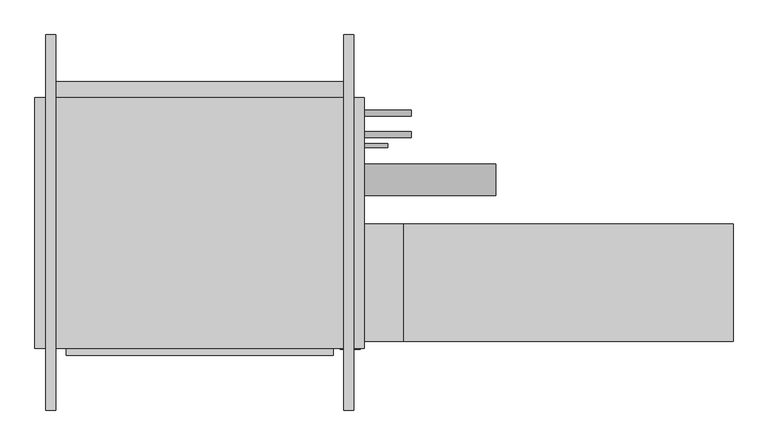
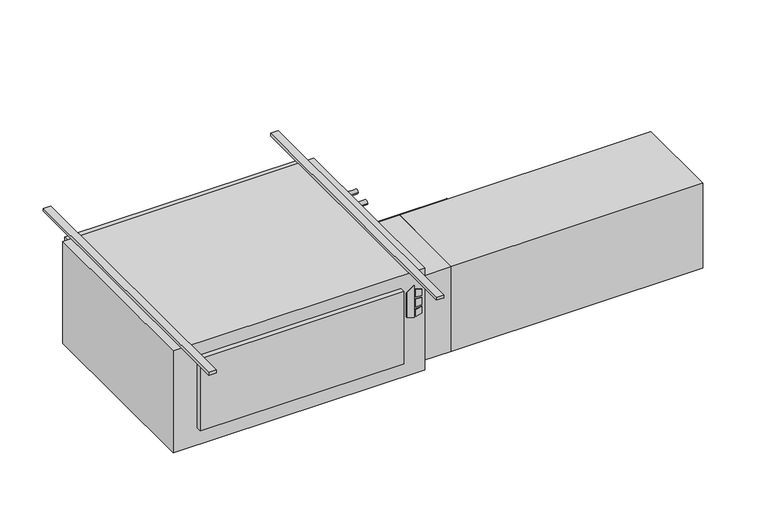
"""IFC4 building model written with IfcOpenShell, lengths in millimetres: proxy geometry."""

from ifc_helpers import new_model, si_unit, point, frame, frame_2d, origin, origin_with_axes, place, context, project, spatial, polyline, circle_curve, trimmed, segment, composite_curve, outline, extrude, source, transform, mapped, element, save


def mechanical_equipment_1d8da599(model_context):
    return source(origin(), model_context, "Body", "SweptSolid", [
        extrude(outline(polyline([(-193.2519297, 608.0868862), (-203.2, 640.2602728), (-61.0290756, 640.2602728), (-84.0510817, 608.0868862), (-193.2519297, 608.0868862)])), frame((0.0, -647.7, 0.0), z_axis=(0.0, 1.0, 0.0), x_axis=(0.0, 0.0, 1.0)), (0.0, 0.0, 1.0), 3.175),
        extrude(outline(polyline([(-114.2526443, 647.0186058), (-117.4550368, 673.1), (-88.2261958, 673.1), (-80.1617807, 647.0186058), (-114.2526443, 647.0186058)])), frame((0.0, -647.7, 0.0), z_axis=(0.0, 1.0, 0.0), x_axis=(0.0, 0.0, 1.0)), (0.0, 0.0, 1.0), 3.175),
        extrude(outline(polyline([(-166.1161712, 673.1), (-169.7816721, 647.0186058), (-203.2, 647.0186058), (-194.5657628, 673.1), (-166.1161712, 673.1)])), frame((0.0, -647.7, 0.0), z_axis=(0.0, 1.0, 0.0), x_axis=(0.0, 0.0, 1.0)), (0.0, 0.0, 1.0), 3.175),
        extrude(outline(polyline([(-126.8010097, 673.1), (-124.5191834, 647.0186058), (-160.4567319, 647.0186058), (-157.7154669, 673.1), (-126.8010097, 673.1)])), frame((0.0, -647.7, 0.0), z_axis=(0.0, 1.0, 0.0), x_axis=(0.0, 0.0, 1.0)), (0.0, 0.0, 1.0), 3.175),
        extrude(outline(polyline([(584.2, -666.877), (-279.4, -666.877), (-279.4, -644.525), (584.2, -644.525), (584.2, -666.877)])), frame((0.0, 0.0, -381.0), z_axis=(0.0, 0.0, 1.0), x_axis=(1.0, 0.0, 0.0)), (0.0, 0.0, 1.0), 323.85),
        extrude(outline(polyline([(1879.6, -241.3), (1879.6, -622.3), (812.8, -622.3), (812.8, -241.3), (1879.6, -241.3)])), frame((0.0, 0.0, -431.8), z_axis=(0.0, 0.0, 1.0), x_axis=(1.0, 0.0, 0.0)), (0.0, 0.0, 1.0), 381.0),
        extrude(outline(polyline([(812.8, -241.3), (812.8, -622.3), (685.8, -622.3), (685.8, -241.3), (812.8, -241.3)])), frame((0.0, 0.0, -431.8), z_axis=(0.0, 0.0, 1.0), x_axis=(1.0, 0.0, 0.0)), (0.0, 0.0, 1.0), 381.0),
        extrude(outline(composite_curve([segment(trimmed(circle_curve(frame_2d((117.475, -171.45)), 9.525), [point((127.0, -171.45))], [point((107.95, -171.45))], False, "CARTESIAN"), True, "CONTINUOUS"), segment(trimmed(circle_curve(frame_2d((117.475, -171.45)), 9.525), [point((107.95, -171.45))], [point((127.0, -171.45))], False, "CARTESIAN"), True, "CONTINUOUS")], self_intersect=False)), frame((685.8, 0.0, 0.0), z_axis=(1.0, 0.0, 0.0), x_axis=(0.0, 1.0, 0.0)), (0.0, 0.0, 1.0), 152.4),
        extrude(outline(composite_curve([segment(trimmed(circle_curve(frame_2d((47.625, -177.8)), 9.525), [point((57.15, -177.8))], [point((38.1, -177.8))], False, "CARTESIAN"), True, "CONTINUOUS"), segment(trimmed(circle_curve(frame_2d((47.625, -177.8)), 9.525), [point((38.1, -177.8))], [point((57.15, -177.8))], False, "CARTESIAN"), True, "CONTINUOUS")], self_intersect=False)), frame((685.8, 0.0, 0.0), z_axis=(1.0, 0.0, 0.0), x_axis=(0.0, 1.0, 0.0)), (0.0, 0.0, 1.0), 152.4),
        extrude(outline(composite_curve([segment(trimmed(circle_curve(frame_2d((-98.4896516, -228.6360165)), 50.8), [point((-47.6896516, -228.6360165))], [point((-149.2896516, -228.6360165))], False, "CARTESIAN"), True, "CONTINUOUS"), segment(trimmed(circle_curve(frame_2d((-98.4896516, -228.6360165)), 50.8), [point((-149.2896516, -228.6360165))], [point((-47.6896516, -228.6360165))], False, "CARTESIAN"), True, "CONTINUOUS")], self_intersect=False)), frame((685.8, 0.0, 0.0), z_axis=(1.0, 0.0, 0.0), x_axis=(0.0, 1.0, 0.0)), (0.0, 0.0, 1.0), 425.45),
        extrude(outline(composite_curve([segment(trimmed(circle_curve(frame_2d((12.7, -409.575)), 6.35), [point((19.05, -409.575))], [point((6.35, -409.575))], False, "CARTESIAN"), True, "CONTINUOUS"), segment(trimmed(circle_curve(frame_2d((12.7, -409.575)), 6.35), [point((6.35, -409.575))], [point((19.05, -409.575))], False, "CARTESIAN"), True, "CONTINUOUS")], self_intersect=False)), frame((685.8, 0.0, 0.0), z_axis=(1.0, 0.0, 0.0), x_axis=(0.0, 1.0, 0.0)), (0.0, 0.0, 1.0), 76.2),
        extrude(outline(polyline([(685.8, 168.275), (685.8, -644.525), (-381.0, -644.525), (-381.0, 168.275), (685.8, 168.275)])), frame((0.0, 0.0, -457.2), z_axis=(0.0, 0.0, 1.0), x_axis=(1.0, 0.0, 0.0)), (0.0, 0.0, 1.0), 457.2),
        extrude(outline(polyline([(-342.9, 219.075), (647.7, 219.075), (647.7, 168.275), (-342.9, 168.275), (-342.9, 219.075)])), frame((0.0, 0.0, -381.0), z_axis=(0.0, 0.0, 1.0), x_axis=(1.0, 0.0, 0.0)), (0.0, 0.0, 1.0), 355.6),
        extrude(outline(polyline([(-314.325, 371.475), (-314.325, -844.677), (-346.075, -844.677), (-346.075, 371.475), (-314.325, 371.475)])), origin_with_axes(), (0.0, 0.0, 1.0), 12.7),
        extrude(outline(polyline([(650.875, 371.475), (650.875, -844.677), (619.125, -844.677), (619.125, 371.475), (650.875, 371.475)])), origin_with_axes(), (0.0, 0.0, 1.0), 12.7),
    ])


if __name__ == "__main__":
    model = new_model("IFC4")
    model_context = context("Model", 3, world=origin())
    ifc_project = project(units=[si_unit("LENGTHUNIT", "METRE", prefix="MILLI")], contexts=[model_context])
    site = spatial("IfcSite", under=ifc_project)
    building = spatial("IfcBuilding", under=site)
    placement = place(None, origin())
    mechanical_equipment_shape = mechanical_equipment_1d8da599(model_context)
    element("IfcBuildingElementProxy", 1, Name="High_Capacity_Horizontal_Cabinet_Fan_Coil_Unit_-_HTY_-_IEC_-_2-Pipe_RH Side_2022 : Size 14 - 115v/60Hz/1Ph - 4/0 Coil - 4\" AirIn", ObjectType="High_Capacity_Horizontal_Cabinet_Fan_Coil_Unit_-_HTY_-_IEC_-_2-Pipe_RH Side_2022 : Size 14 - 115v/60Hz/1Ph - 4/0 Coil - 4\" AirIn", at=placement, inside=building, context=model_context, shape_type="MappedRepresentation", body=[
        mapped(mechanical_equipment_shape, transform((0.0, 0.0, 0.0), x_axis=(1.0, 0.0, 0.0), y_axis=(0.0, 1.0, 0.0), z_axis=(0.0, 0.0, 1.0))),
    ])
    save(model, "model.ifc")
